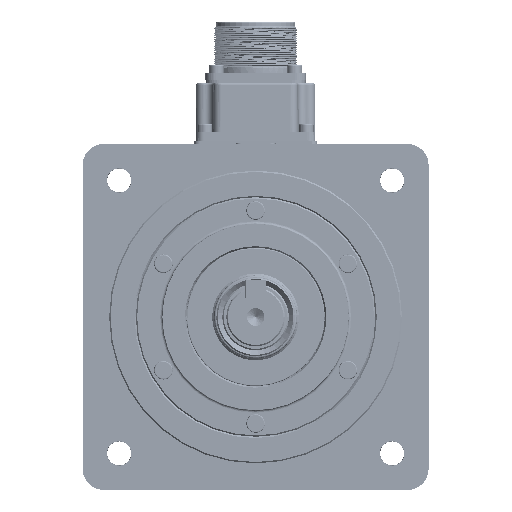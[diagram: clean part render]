
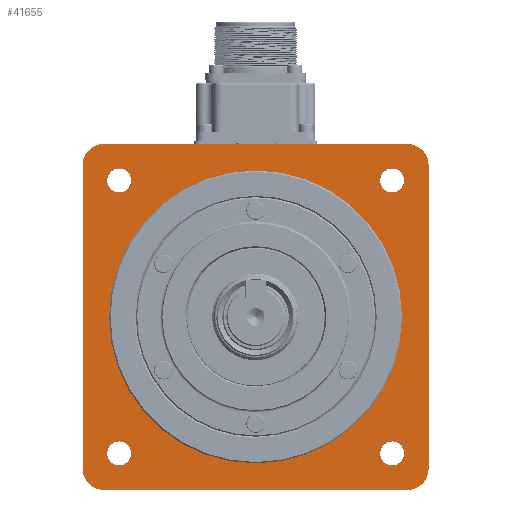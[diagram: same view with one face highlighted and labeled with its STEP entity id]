
A CAD part, front view. The second image highlights one B-rep face of the part: STEP entity #41655.
In plain terms, the highlighted planar face has unit normal (0, -1, 0).
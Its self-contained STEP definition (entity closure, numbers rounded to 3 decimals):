
#1104=LINE('',#59653,#4269);
#1183=LINE('',#62557,#4348);
#1188=LINE('',#62567,#4353);
#1193=LINE('',#62579,#4358);
#4269=VECTOR('',#48236,1000.);
#4348=VECTOR('',#48933,1000.);
#4353=VECTOR('',#48944,1000.);
#4358=VECTOR('',#48959,1000.);
#9025=PLANE('',#44630);
#10997=ORIENTED_EDGE('',*,*,#22068,.F.);
#10998=ORIENTED_EDGE('',*,*,#22030,.F.);
#10999=ORIENTED_EDGE('',*,*,#22027,.T.);
#11000=ORIENTED_EDGE('',*,*,#22038,.F.);
#11001=ORIENTED_EDGE('',*,*,#22033,.T.);
#11002=ORIENTED_EDGE('',*,*,#22044,.F.);
#11003=ORIENTED_EDGE('',*,*,#22041,.T.);
#11004=ORIENTED_EDGE('',*,*,#22045,.F.);
#11005=ORIENTED_EDGE('',*,*,#21671,.T.);
#11006=ORIENTED_EDGE('',*,*,#21986,.F.);
#11007=ORIENTED_EDGE('',*,*,#21997,.F.);
#11008=ORIENTED_EDGE('',*,*,#22007,.F.);
#11009=ORIENTED_EDGE('',*,*,#21977,.F.);
#21671=EDGE_CURVE('',#27376,#27375,#1104,.T.);
#21977=EDGE_CURVE('',#27587,#27587,#31541,.F.);
#21986=EDGE_CURVE('',#27595,#27595,#31547,.F.);
#21997=EDGE_CURVE('',#27605,#27605,#31555,.F.);
#22007=EDGE_CURVE('',#27615,#27615,#31561,.F.);
#22027=EDGE_CURVE('',#27626,#27625,#1183,.T.);
#22030=EDGE_CURVE('',#27626,#27375,#31567,.F.);
#22033=EDGE_CURVE('',#27628,#27627,#1188,.T.);
#22038=EDGE_CURVE('',#27628,#27625,#31570,.F.);
#22041=EDGE_CURVE('',#27630,#27629,#1193,.T.);
#22044=EDGE_CURVE('',#27630,#27627,#31571,.F.);
#22045=EDGE_CURVE('',#27376,#27629,#31572,.F.);
#22068=EDGE_CURVE('',#27643,#27643,#31587,.T.);
#27375=VERTEX_POINT('',#59652);
#27376=VERTEX_POINT('',#59654);
#27587=VERTEX_POINT('',#62453);
#27595=VERTEX_POINT('',#62472);
#27605=VERTEX_POINT('',#62497);
#27615=VERTEX_POINT('',#62519);
#27625=VERTEX_POINT('',#62556);
#27626=VERTEX_POINT('',#62558);
#27627=VERTEX_POINT('',#62566);
#27628=VERTEX_POINT('',#62568);
#27629=VERTEX_POINT('',#62578);
#27630=VERTEX_POINT('',#62580);
#27643=VERTEX_POINT('',#62644);
#31541=CIRCLE('',#44539,4.6);
#31547=CIRCLE('',#44547,4.6);
#31555=CIRCLE('',#44559,4.6);
#31561=CIRCLE('',#44567,4.6);
#31567=CIRCLE('',#44582,8.);
#31570=CIRCLE('',#44587,8.);
#31571=CIRCLE('',#44590,8.);
#31572=CIRCLE('',#44592,8.);
#31587=CIRCLE('',#44629,55.);
#33043=EDGE_LOOP('',(#10997));
#33044=EDGE_LOOP('',(#10998,#10999,#11000,#11001,#11002,#11003,#11004,#11005));
#33045=EDGE_LOOP('',(#11006));
#33046=EDGE_LOOP('',(#11007));
#33047=EDGE_LOOP('',(#11008));
#33048=EDGE_LOOP('',(#11009));
#36551=FACE_BOUND('',#33043,.T.);
#36552=FACE_BOUND('',#33044,.T.);
#36553=FACE_BOUND('',#33045,.T.);
#36554=FACE_BOUND('',#33046,.T.);
#36555=FACE_BOUND('',#33047,.T.);
#36556=FACE_BOUND('',#33048,.T.);
#41655=ADVANCED_FACE('',(#36551,#36552,#36553,#36554,#36555,#36556),#9025,
 .F.);
#44539=AXIS2_PLACEMENT_3D('',#62452,#48825,#48826);
#44547=AXIS2_PLACEMENT_3D('',#62471,#48844,#48845);
#44559=AXIS2_PLACEMENT_3D('',#62496,#48871,#48872);
#44567=AXIS2_PLACEMENT_3D('',#62518,#48891,#48892);
#44582=AXIS2_PLACEMENT_3D('',#62562,#48938,#48939);
#44587=AXIS2_PLACEMENT_3D('',#62574,#48953,#48954);
#44590=AXIS2_PLACEMENT_3D('',#62584,#48964,#48965);
#44592=AXIS2_PLACEMENT_3D('',#62586,#48968,#48969);
#44629=AXIS2_PLACEMENT_3D('',#62643,#49050,#49051);
#44630=AXIS2_PLACEMENT_3D('',#62645,#49052,#49053);
#48236=DIRECTION('',(-1.,0.,0.));
#48825=DIRECTION('',(0.,1.,0.));
#48826=DIRECTION('',(0.,0.,1.));
#48844=DIRECTION('',(0.,1.,0.));
#48845=DIRECTION('',(0.,0.,1.));
#48871=DIRECTION('',(0.,1.,0.));
#48872=DIRECTION('',(0.,0.,1.));
#48891=DIRECTION('',(0.,1.,0.));
#48892=DIRECTION('',(0.,0.,1.));
#48933=DIRECTION('',(0.,0.,-1.));
#48938=DIRECTION('',(0.,-1.,0.));
#48939=DIRECTION('',(0.,0.,-1.));
#48944=DIRECTION('',(1.,0.,0.));
#48953=DIRECTION('',(0.,-1.,0.));
#48954=DIRECTION('',(0.,0.,-1.));
#48959=DIRECTION('',(0.,0.,1.));
#48964=DIRECTION('',(0.,-1.,0.));
#48965=DIRECTION('',(0.,0.,-1.));
#48968=DIRECTION('',(0.,-1.,0.));
#48969=DIRECTION('',(0.,0.,-1.));
#49050=DIRECTION('',(0.,-1.,0.));
#49051=DIRECTION('',(0.,0.,-1.));
#49052=DIRECTION('',(0.,1.,0.));
#49053=DIRECTION('',(0.,0.,1.));
#59652=CARTESIAN_POINT('',(-57.,1.2,65.));
#59653=CARTESIAN_POINT('',(65.,1.2,65.));
#59654=CARTESIAN_POINT('',(57.,1.2,65.));
#62452=CARTESIAN_POINT('',(51.265,1.2,51.265));
#62453=CARTESIAN_POINT('',(51.265,1.2,55.866));
#62471=CARTESIAN_POINT('',(-51.265,1.2,51.265));
#62472=CARTESIAN_POINT('',(-51.265,1.2,55.866));
#62496=CARTESIAN_POINT('',(-51.265,1.2,-51.265));
#62497=CARTESIAN_POINT('',(-51.265,1.2,-46.665));
#62518=CARTESIAN_POINT('',(51.265,1.2,-51.265));
#62519=CARTESIAN_POINT('',(51.265,1.2,-46.665));
#62556=CARTESIAN_POINT('',(-65.,1.2,-57.));
#62557=CARTESIAN_POINT('',(-65.,1.2,65.));
#62558=CARTESIAN_POINT('',(-65.,1.2,57.));
#62562=CARTESIAN_POINT('',(-57.,1.2,57.));
#62566=CARTESIAN_POINT('',(57.,1.2,-65.));
#62567=CARTESIAN_POINT('',(-65.,1.2,-65.));
#62568=CARTESIAN_POINT('',(-57.,1.2,-65.));
#62574=CARTESIAN_POINT('',(-57.,1.2,-57.));
#62578=CARTESIAN_POINT('',(65.,1.2,57.));
#62579=CARTESIAN_POINT('',(65.,1.2,-65.));
#62580=CARTESIAN_POINT('',(65.,1.2,-57.));
#62584=CARTESIAN_POINT('',(57.,1.2,-57.));
#62586=CARTESIAN_POINT('',(57.,1.2,57.));
#62643=CARTESIAN_POINT('',(0.,1.2,0.));
#62644=CARTESIAN_POINT('',(0.,1.2,-55.));
#62645=CARTESIAN_POINT('',(0.,1.2,55.));
